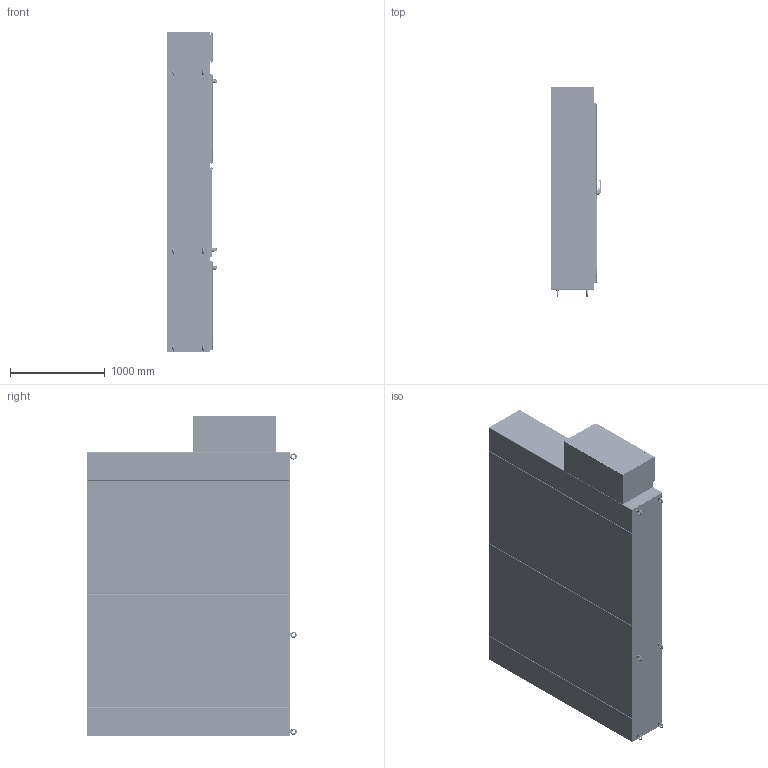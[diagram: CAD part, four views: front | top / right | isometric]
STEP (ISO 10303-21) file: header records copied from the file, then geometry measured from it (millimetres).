
FILE_DESCRIPTION((''),'2;1');
FILE_NAME('MODEL-605_ASM','2025-02-13T13:15:16',('joshi'),('SAGINAW CONTROL & ENGINEERING'),'CREO PARAMETRIC BY PTC INC, 2021284','CREO PARAMETRIC BY PTC INC, 2021284','');
FILE_SCHEMA(('AUTOMOTIVE_DESIGN { 1 0 10303 214 1 1 1 1 }'));
Length unit declared in the file: inch
Products named in the file (201): MODEL-605-3D-TP; MODEL-605-3D-R-SD; MODEL-605-3D-L-SD; MODEL-605-3D-BTM; MODEL-605-3D-R-BCK; MODEL-605-3D-L-BCK; 128003; 100028; 128003_ASM; 127619; 127619_ASM; MODEL-605-RH-CCA-CHNL; MODEL-605-RH-CCA-STIF; 100062; 128004; 128007; 102535; 100057; MODEL-605-RH-CCASSY_ASM; MODEL-605-M-CCA-CHNL; MODEL-605-M-CCA-STIF; 127618; 127617; MODEL-605-M-CCASSY_ASM; MODEL-605-M-DR; 100837; 111267; 100882; 100953_SCREW_MTG; 100953_PADLOCK_CATCH; 100953_SCREW_LARGE; 100953_INSERT_SHAFT; 100953_INSERT_PCH; 100953_GASKET; 100953_O-RING; 100953_BASE; 100953_SPRING; 100953_HANDLE; 100953_CAM_SHAFT; 100953_HANDLE_ASM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
Assembly tree (519 placements, depth 5):
  MODEL-605_ASM
    MODEL-605-3D-TP
    MODEL-605-3D-R-SD
    MODEL-605-3D-L-SD
    MODEL-605-3D-BTM
    MODEL-605-3D-R-BCK
    MODEL-605-3D-L-BCK
    128003_ASM  x2
      128003
      100028
    127619_ASM  x2
      127619
      100028
    MODEL-605-RH-CCASSY_ASM
      MODEL-605-RH-CCA-CHNL
      MODEL-605-RH-CCA-STIF
      100062  x2
      128004  x2
      128007  x2
      102535  x8
      100057  x2
    MODEL-605-M-CCASSY_ASM
      MODEL-605-M-CCA-CHNL
      MODEL-605-M-CCA-STIF
      100062  x2
      127618  x2
      127617  x2
      102535  x8
    MODEL-605-M-DOOR-ASSY_ASM
      MODEL-605-M-DR
      100837  x7
      111267
      100882  x12
      100953_ASM
        100953_SCREW_MTG
        100953_PADLOCK_CATCH
        100953_SCREW_LARGE  x2
        100953_INSERT_SHAFT
        100953_INSERT_PCH
        100953_GASKET
        100953_O-RING
        100953_BASE
        100953_SPRING
        100953_HANDLE_ASM
          100953_HANDLE
          100953_CAM_SHAFT
        100953_CAM_ADAPTER
        100953_EARTH_NUT
        100953_FLANGE_NUT
        100953_CAM_NUT
        100953_CP_INSERT
        100953_SPRING_CAM
        100953_TORSION_SPRING
        100953_SCREW_INSERT
      102237_ASM
        102237
        100030  x2
      MODEL-605-ROD-UPR-MD_ASM
        MODEL-605-ROD-UPR-MD
        128146
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Bounding box: 535.27 x 2208.4 x 3378.2 mm (x, y, z)
Volume: 82683487.6 mm3; surface area: 55651075.2 mm2
Topology: 589 solids, 589 shells, 45448 faces, 115624 edges, 71402 vertices
Faces by surface type: plane 16110, cylinder 11687, bspline 10707, torus 3286, cone 2346, sphere 1222, extrusion 90
Entity records: 804985 total; most frequent: CARTESIAN_POINT 305477, ORIENTED_EDGE 74922, DIRECTION 70710, PRESENTATION_STYLE_ASSIGNMENT 37795, STYLED_ITEM 37509, EDGE_CURVE 37461, CURVE_STYLE 37251, AXIS2_PLACEMENT_3D 26246
